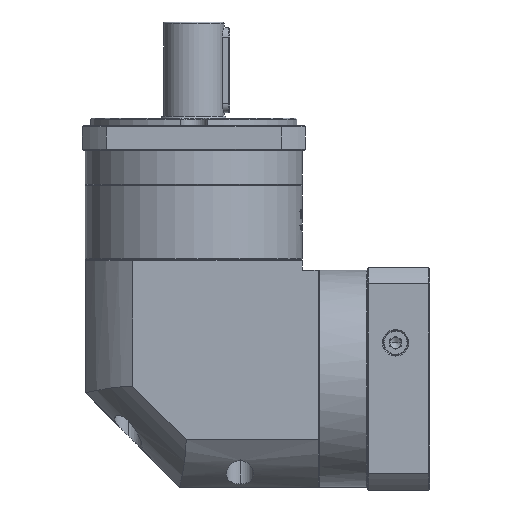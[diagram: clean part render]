
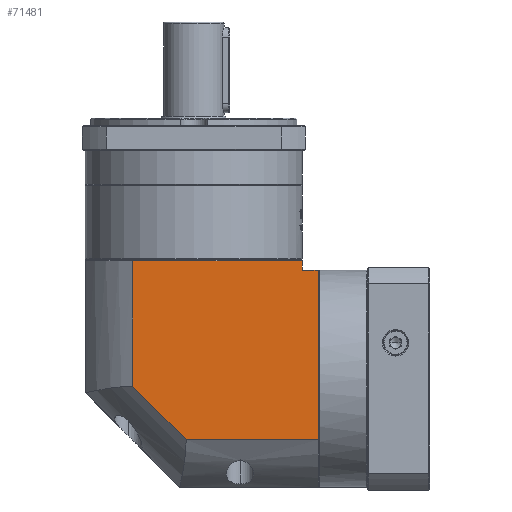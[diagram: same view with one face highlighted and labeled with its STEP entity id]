
A CAD part, left-side view. The second image highlights one B-rep face of the part: STEP entity #71481.
In plain terms, the highlighted planar face has unit normal (-1, 0, 0).
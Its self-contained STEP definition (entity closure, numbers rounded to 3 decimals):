
#3646 = ORIENTED_EDGE ( 'NONE', *, *, #133193, .T. ) ;
#5161 = EDGE_LOOP ( 'NONE', ( #54312, #89082, #64375, #67405, #84958, #3646, #139938 ) ) ;
#6409 = EDGE_CURVE ( 'NONE', #107631, #119119, #43956, .T. ) ;
#7915 = EDGE_CURVE ( 'NONE', #119119, #116874, #114997, .T. ) ;
#9924 = DIRECTION ( 'NONE',  ( 1., 0., 0. ) ) ;
#12579 = CARTESIAN_POINT ( 'NONE',  ( 117.82, 118.089, 151.751 ) ) ;
#14238 = LINE ( 'NONE', #67883, #98670 ) ;
#20194 = CARTESIAN_POINT ( 'NONE',  ( 117.82, 19.79, 151.751 ) ) ;
#21090 = CARTESIAN_POINT ( 'NONE',  ( 117.82, 28.19, 145.251 ) ) ;
#23712 = DIRECTION ( 'NONE',  ( 0., 1., 0. ) ) ;
#24055 = CARTESIAN_POINT ( 'NONE',  ( 117.82, 143.19, 50.351 ) ) ;
#25430 = VECTOR ( 'NONE', #152213, 1000. ) ;
#43157 = VECTOR ( 'NONE', #50026, 1000. ) ;
#43416 = CARTESIAN_POINT ( 'NONE',  ( 117.82, 118.089, 145.251 ) ) ;
#43956 = LINE ( 'NONE', #20194, #25430 ) ;
#44794 = EDGE_CURVE ( 'NONE', #50952, #96158, #51853, .T. ) ;
#50026 = DIRECTION ( 'NONE',  ( 0., 1., 0. ) ) ;
#50952 = VERTEX_POINT ( 'NONE', #43416 ) ;
#51853 = LINE ( 'NONE', #135090, #144100 ) ;
#54312 = ORIENTED_EDGE ( 'NONE', *, *, #169239, .F. ) ;
#55690 = VECTOR ( 'NONE', #108140, 1000. ) ;
#57672 = LINE ( 'NONE', #12579, #106851 ) ;
#62361 = VERTEX_POINT ( 'NONE', #92138 ) ;
#64375 = ORIENTED_EDGE ( 'NONE', *, *, #7915, .F. ) ;
#67405 = ORIENTED_EDGE ( 'NONE', *, *, #6409, .F. ) ;
#67883 = CARTESIAN_POINT ( 'NONE',  ( 117.82, 89.751, 50.351 ) ) ;
#69564 = CARTESIAN_POINT ( 'NONE',  ( 117.82, 19.79, 140.251 ) ) ;
#71481 = ADVANCED_FACE ( 'NONE', ( #90378 ), #116776, .F. ) ;
#77781 = VECTOR ( 'NONE', #134760, 1000. ) ;
#82250 = LINE ( 'NONE', #131698, #55690 ) ;
#82853 = CARTESIAN_POINT ( 'NONE',  ( 117.82, 89.751, 50.351 ) ) ;
#83223 = AXIS2_PLACEMENT_3D ( 'NONE', #154018, #9924, #23712 ) ;
#84352 = VERTEX_POINT ( 'NONE', #160154 ) ;
#84958 = ORIENTED_EDGE ( 'NONE', *, *, #130721, .T. ) ;
#89082 = ORIENTED_EDGE ( 'NONE', *, *, #113683, .F. ) ;
#90378 = FACE_OUTER_BOUND ( 'NONE', #5161, .T. ) ;
#92138 = CARTESIAN_POINT ( 'NONE',  ( 117.82, 118.089, 78.689 ) ) ;
#96158 = VERTEX_POINT ( 'NONE', #21090 ) ;
#98670 = VECTOR ( 'NONE', #121685, 1000. ) ;
#106851 = VECTOR ( 'NONE', #134818, 1000. ) ;
#107631 = VERTEX_POINT ( 'NONE', #69564 ) ;
#108140 = DIRECTION ( 'NONE',  ( 0., 0., 1. ) ) ;
#113683 = EDGE_CURVE ( 'NONE', #116874, #62361, #14238, .T. ) ;
#114997 = LINE ( 'NONE', #24055, #43157 ) ;
#116776 = PLANE ( 'NONE',  #83223 ) ;
#116874 = VERTEX_POINT ( 'NONE', #82853 ) ;
#119119 = VERTEX_POINT ( 'NONE', #148009 ) ;
#121685 = DIRECTION ( 'NONE',  ( 0., 0.707, 0.707 ) ) ;
#130721 = EDGE_CURVE ( 'NONE', #107631, #84352, #149633, .T. ) ;
#131698 = CARTESIAN_POINT ( 'NONE',  ( 117.82, 28.19, 25.251 ) ) ;
#133193 = EDGE_CURVE ( 'NONE', #84352, #96158, #82250, .T. ) ;
#134760 = DIRECTION ( 'NONE',  ( 0., 1., 0. ) ) ;
#134818 = DIRECTION ( 'NONE',  ( 0., 0., 1. ) ) ;
#135090 = CARTESIAN_POINT ( 'NONE',  ( 117.82, 143.19, 145.251 ) ) ;
#139938 = ORIENTED_EDGE ( 'NONE', *, *, #44794, .F. ) ;
#144100 = VECTOR ( 'NONE', #147635, 1000. ) ;
#147635 = DIRECTION ( 'NONE',  ( 0., -1., 0. ) ) ;
#148009 = CARTESIAN_POINT ( 'NONE',  ( 117.82, 19.79, 50.351 ) ) ;
#149633 = LINE ( 'NONE', #160560, #77781 ) ;
#152213 = DIRECTION ( 'NONE',  ( 0., 0., -1. ) ) ;
#154018 = CARTESIAN_POINT ( 'NONE',  ( 117.82, 143.19, 151.751 ) ) ;
#160154 = CARTESIAN_POINT ( 'NONE',  ( 117.82, 28.19, 140.251 ) ) ;
#160560 = CARTESIAN_POINT ( 'NONE',  ( 117.82, 28.19, 140.251 ) ) ;
#169239 = EDGE_CURVE ( 'NONE', #62361, #50952, #57672, .T. ) ;
